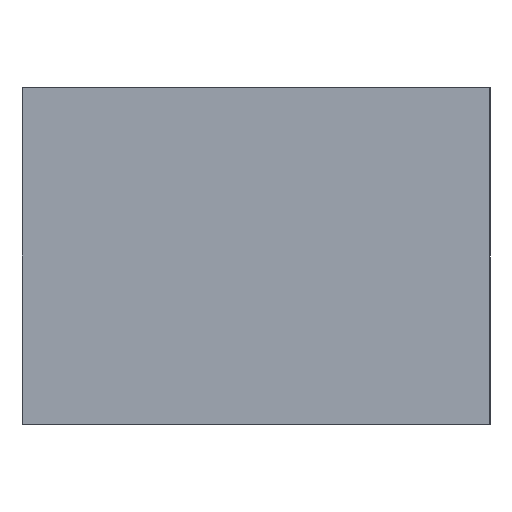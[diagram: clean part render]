
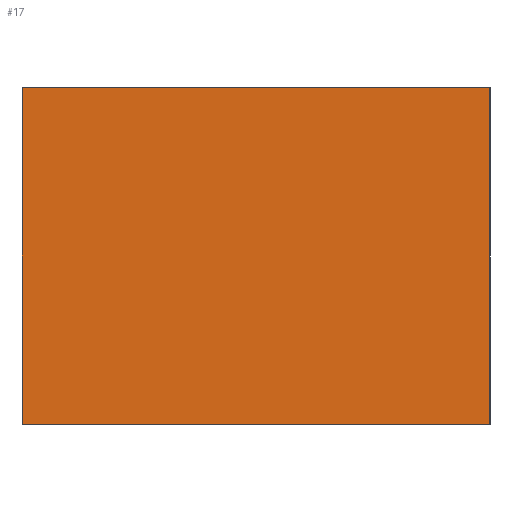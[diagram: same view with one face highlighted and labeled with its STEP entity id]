
A CAD part, left-side view. The second image highlights one B-rep face of the part: STEP entity #17.
In plain terms, the highlighted planar face has unit normal (-1, 0, 0).
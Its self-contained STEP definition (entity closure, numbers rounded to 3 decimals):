
#17 = ADVANCED_FACE('',(#18),#32,.F.);
#18 = FACE_BOUND('',#19,.F.);
#19 = EDGE_LOOP('',(#20,#55,#83,#111));
#20 = ORIENTED_EDGE('',*,*,#21,.F.);
#21 = EDGE_CURVE('',#22,#24,#26,.T.);
#22 = VERTEX_POINT('',#23);
#23 = CARTESIAN_POINT('',(-87.,-89.5,-115.));
#24 = VERTEX_POINT('',#25);
#25 = CARTESIAN_POINT('',(-87.,-89.5,-97.));
#26 = SURFACE_CURVE('',#27,(#31,#43),.PCURVE_S1.);
#27 = LINE('',#28,#29);
#28 = CARTESIAN_POINT('',(-87.,-89.5,-115.));
#29 = VECTOR('',#30,1.);
#30 = DIRECTION('',(0.,0.,1.));
#31 = PCURVE('',#32,#37);
#32 = PLANE('',#33);
#33 = AXIS2_PLACEMENT_3D('',#34,#35,#36);
#34 = CARTESIAN_POINT('',(-87.,-89.5,-115.));
#35 = DIRECTION('',(1.,0.,0.));
#36 = DIRECTION('',(0.,0.,1.));
#37 = DEFINITIONAL_REPRESENTATION('',(#38),#42);
#38 = LINE('',#39,#40);
#39 = CARTESIAN_POINT('',(0.,0.));
#40 = VECTOR('',#41,1.);
#41 = DIRECTION('',(1.,0.));
#42 = ( GEOMETRIC_REPRESENTATION_CONTEXT(2) 
PARAMETRIC_REPRESENTATION_CONTEXT() REPRESENTATION_CONTEXT('2D SPACE',''
  ) );
#43 = PCURVE('',#44,#49);
#44 = PLANE('',#45);
#45 = AXIS2_PLACEMENT_3D('',#46,#47,#48);
#46 = CARTESIAN_POINT('',(-87.,-89.5,-115.));
#47 = DIRECTION('',(0.,1.,0.));
#48 = DIRECTION('',(0.,0.,1.));
#49 = DEFINITIONAL_REPRESENTATION('',(#50),#54);
#50 = LINE('',#51,#52);
#51 = CARTESIAN_POINT('',(0.,0.));
#52 = VECTOR('',#53,1.);
#53 = DIRECTION('',(1.,0.));
#54 = ( GEOMETRIC_REPRESENTATION_CONTEXT(2) 
PARAMETRIC_REPRESENTATION_CONTEXT() REPRESENTATION_CONTEXT('2D SPACE',''
  ) );
#55 = ORIENTED_EDGE('',*,*,#56,.T.);
#56 = EDGE_CURVE('',#22,#57,#59,.T.);
#57 = VERTEX_POINT('',#58);
#58 = CARTESIAN_POINT('',(-87.,-64.5,-115.));
#59 = SURFACE_CURVE('',#60,(#64,#71),.PCURVE_S1.);
#60 = LINE('',#61,#62);
#61 = CARTESIAN_POINT('',(-87.,-89.5,-115.));
#62 = VECTOR('',#63,1.);
#63 = DIRECTION('',(0.,1.,0.));
#64 = PCURVE('',#32,#65);
#65 = DEFINITIONAL_REPRESENTATION('',(#66),#70);
#66 = LINE('',#67,#68);
#67 = CARTESIAN_POINT('',(0.,0.));
#68 = VECTOR('',#69,1.);
#69 = DIRECTION('',(0.,-1.));
#70 = ( GEOMETRIC_REPRESENTATION_CONTEXT(2) 
PARAMETRIC_REPRESENTATION_CONTEXT() REPRESENTATION_CONTEXT('2D SPACE',''
  ) );
#71 = PCURVE('',#72,#77);
#72 = PLANE('',#73);
#73 = AXIS2_PLACEMENT_3D('',#74,#75,#76);
#74 = CARTESIAN_POINT('',(-87.,-89.5,-115.));
#75 = DIRECTION('',(0.,0.,1.));
#76 = DIRECTION('',(1.,0.,0.));
#77 = DEFINITIONAL_REPRESENTATION('',(#78),#82);
#78 = LINE('',#79,#80);
#79 = CARTESIAN_POINT('',(0.,0.));
#80 = VECTOR('',#81,1.);
#81 = DIRECTION('',(0.,1.));
#82 = ( GEOMETRIC_REPRESENTATION_CONTEXT(2) 
PARAMETRIC_REPRESENTATION_CONTEXT() REPRESENTATION_CONTEXT('2D SPACE',''
  ) );
#83 = ORIENTED_EDGE('',*,*,#84,.T.);
#84 = EDGE_CURVE('',#57,#85,#87,.T.);
#85 = VERTEX_POINT('',#86);
#86 = CARTESIAN_POINT('',(-87.,-64.5,-97.));
#87 = SURFACE_CURVE('',#88,(#92,#99),.PCURVE_S1.);
#88 = LINE('',#89,#90);
#89 = CARTESIAN_POINT('',(-87.,-64.5,-115.));
#90 = VECTOR('',#91,1.);
#91 = DIRECTION('',(0.,0.,1.));
#92 = PCURVE('',#32,#93);
#93 = DEFINITIONAL_REPRESENTATION('',(#94),#98);
#94 = LINE('',#95,#96);
#95 = CARTESIAN_POINT('',(0.,-25.));
#96 = VECTOR('',#97,1.);
#97 = DIRECTION('',(1.,0.));
#98 = ( GEOMETRIC_REPRESENTATION_CONTEXT(2) 
PARAMETRIC_REPRESENTATION_CONTEXT() REPRESENTATION_CONTEXT('2D SPACE',''
  ) );
#99 = PCURVE('',#100,#105);
#100 = PLANE('',#101);
#101 = AXIS2_PLACEMENT_3D('',#102,#103,#104);
#102 = CARTESIAN_POINT('',(-87.,-64.5,-115.));
#103 = DIRECTION('',(0.,1.,0.));
#104 = DIRECTION('',(0.,0.,1.));
#105 = DEFINITIONAL_REPRESENTATION('',(#106),#110);
#106 = LINE('',#107,#108);
#107 = CARTESIAN_POINT('',(0.,0.));
#108 = VECTOR('',#109,1.);
#109 = DIRECTION('',(1.,0.));
#110 = ( GEOMETRIC_REPRESENTATION_CONTEXT(2) 
PARAMETRIC_REPRESENTATION_CONTEXT() REPRESENTATION_CONTEXT('2D SPACE',''
  ) );
#111 = ORIENTED_EDGE('',*,*,#112,.F.);
#112 = EDGE_CURVE('',#24,#85,#113,.T.);
#113 = SURFACE_CURVE('',#114,(#118,#125),.PCURVE_S1.);
#114 = LINE('',#115,#116);
#115 = CARTESIAN_POINT('',(-87.,-89.5,-97.));
#116 = VECTOR('',#117,1.);
#117 = DIRECTION('',(0.,1.,0.));
#118 = PCURVE('',#32,#119);
#119 = DEFINITIONAL_REPRESENTATION('',(#120),#124);
#120 = LINE('',#121,#122);
#121 = CARTESIAN_POINT('',(18.,0.));
#122 = VECTOR('',#123,1.);
#123 = DIRECTION('',(0.,-1.));
#124 = ( GEOMETRIC_REPRESENTATION_CONTEXT(2) 
PARAMETRIC_REPRESENTATION_CONTEXT() REPRESENTATION_CONTEXT('2D SPACE',''
  ) );
#125 = PCURVE('',#126,#131);
#126 = PLANE('',#127);
#127 = AXIS2_PLACEMENT_3D('',#128,#129,#130);
#128 = CARTESIAN_POINT('',(-87.,-89.5,-97.));
#129 = DIRECTION('',(0.,0.,1.));
#130 = DIRECTION('',(1.,0.,0.));
#131 = DEFINITIONAL_REPRESENTATION('',(#132),#136);
#132 = LINE('',#133,#134);
#133 = CARTESIAN_POINT('',(0.,0.));
#134 = VECTOR('',#135,1.);
#135 = DIRECTION('',(0.,1.));
#136 = ( GEOMETRIC_REPRESENTATION_CONTEXT(2) 
PARAMETRIC_REPRESENTATION_CONTEXT() REPRESENTATION_CONTEXT('2D SPACE',''
  ) );
